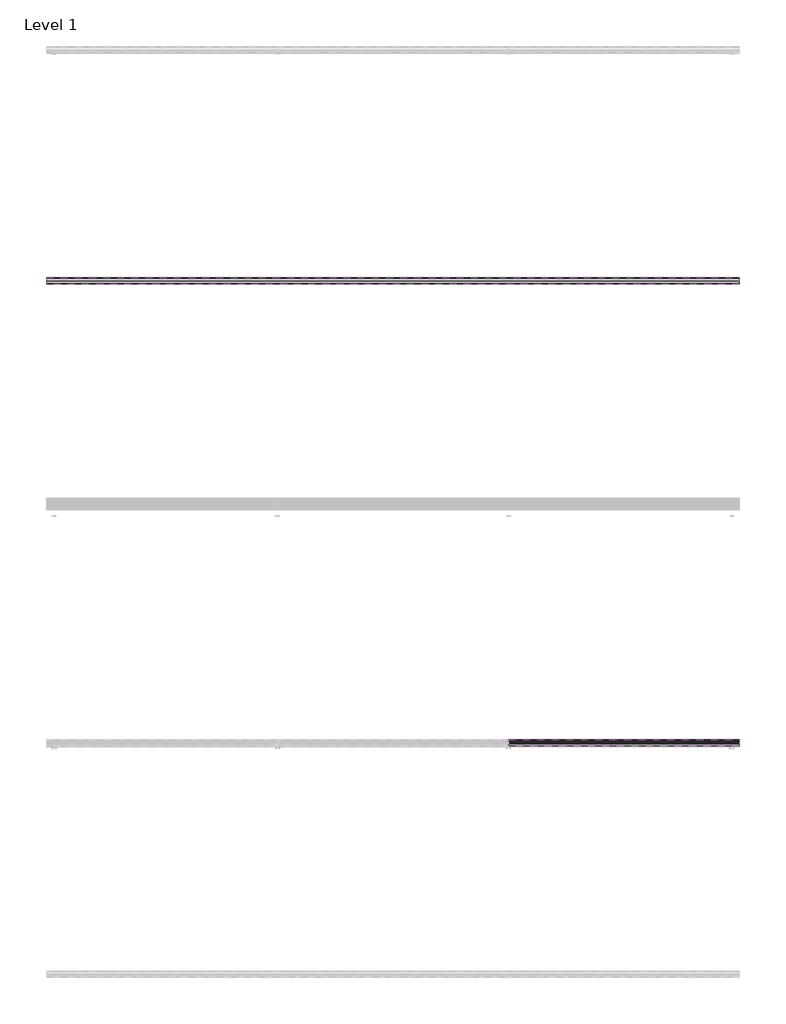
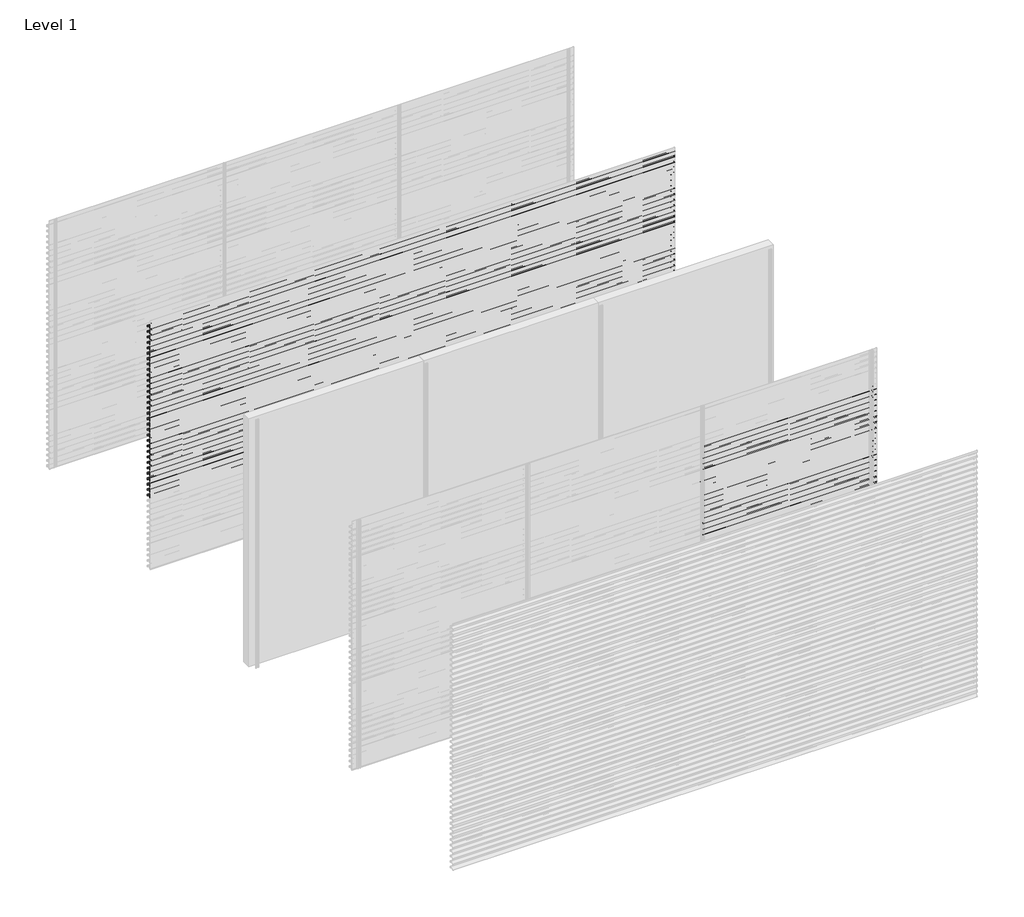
# One storey, part 25 of 27: 71 proxies.
"""IFC4 building model written with IfcOpenShell, lengths in millimetres."""

import ifcopenshell
import ifcopenshell.guid

model = None  # the IFC model being written
_history = None  # IfcOwnerHistory: only IFC2X3 demands one
_inside = {}  # id of a spatial element -> (the spatial element, [elements in it])
_under = {}  # id of a project, library or spatial element -> (it, [spatial elements below it])
_declared = {}  # id of a project -> (the project, [libraries it declares])
_typed = {}  # id of a type object -> (the type object, [elements of that type])
_made_of = {}  # id of a material, layer set ... -> (it, [elements and type objects made of it])


def new_model(schema):
    """Start an empty IFC model of exactly this schema.

    Asked for "IFC4X3", IfcOpenShell would pick the latest addendum, in which some entities
    have other attributes; the version numbers below select the first issue.
    IFC2X3 requires an IfcOwnerHistory on every rooted entity: one is made here for all.
    """
    global model, _history
    if schema == "IFC4X3":
        model = ifcopenshell.file(schema_version=(4, 3, 0, 0))
    else:
        model = ifcopenshell.file(schema=schema)
    _inside.clear()
    _under.clear()
    _declared.clear()
    _typed.clear()
    _made_of.clear()
    _history = None
    if model.schema == "IFC2X3":
        org = make("IfcOrganization", Name="unknown")
        user = make(
            "IfcPersonAndOrganization",
            ThePerson=make("IfcPerson", FamilyName="unknown"),
            TheOrganization=org,
        )
        app = make(
            "IfcApplication",
            ApplicationDeveloper=org,
            Version="unknown",
            ApplicationFullName="unknown",
            ApplicationIdentifier="unknown",
        )
        _history = make(
            "IfcOwnerHistory",
            OwningUser=user,
            OwningApplication=app,
            ChangeAction="ADDED",
            CreationDate=0,
        )
    return model


def make(cls, **values):
    """One entity of the class cls with the attributes given. An attribute that is None is left unset."""
    return model.create_entity(
        cls, **{name: value for name, value in values.items() if value is not None}
    )


def rooted(cls, **values):
    """An entity with a GlobalId (a new one), such as an element, a storey or a relation."""
    return make(cls, GlobalId=ifcopenshell.guid.new(), OwnerHistory=_history, **values)


def si_unit(unit_type, name, prefix=None):
    """IfcSIUnit, for example si_unit("LENGTHUNIT", "METRE", prefix="MILLI")."""
    return make("IfcSIUnit", UnitType=unit_type, Prefix=prefix, Name=name)


def assignment(units):
    """IfcUnitAssignment: the units of a project."""
    return None if units is None else make("IfcUnitAssignment", Units=units)


def point(xyz):
    """IfcCartesianPoint."""
    return None if xyz is None else make("IfcCartesianPoint", Coordinates=xyz)


def direction(xyz):
    """IfcDirection."""
    return None if xyz is None else make("IfcDirection", DirectionRatios=xyz)


def frame(location, z_axis=None, x_axis=None):
    """IfcAxis2Placement3D, a coordinate frame: its origin and axes. An axis left out is left unset."""
    return make(
        "IfcAxis2Placement3D",
        Location=point(location),
        Axis=direction(z_axis),
        RefDirection=direction(x_axis),
    )


def origin():
    """The frame at (0, 0, 0) with its axes left unset."""
    return frame((0.0, 0.0, 0.0))


def place(relative_to, where):
    """IfcLocalPlacement: puts the frame where relative to a parent placement (None: the world)."""
    return make(
        "IfcLocalPlacement", PlacementRelTo=relative_to, RelativePlacement=where
    )


def context(
    kind, dimensions, precision=None, world=None, true_north=None, identifier=None
):
    """IfcGeometricRepresentationContext, for example the 3D "Model" context."""
    return make(
        "IfcGeometricRepresentationContext",
        ContextIdentifier=identifier,
        ContextType=kind,
        CoordinateSpaceDimension=dimensions,
        Precision=precision,
        WorldCoordinateSystem=world,
        TrueNorth=true_north,
    )


def project(units=None, contexts=None):
    """IfcProject with its units and contexts."""
    return rooted(
        "IfcProject",
        Name="project",
        RepresentationContexts=contexts,
        UnitsInContext=assignment(units),
    )


def spatial(cls, under=None, at=None, **own):
    """A site, building, storey or space (cls), placed at a placement, below another one or the project."""
    s = rooted(cls, ObjectPlacement=at, **own)
    if under is not None:
        _under.setdefault(under.id(), (under, []))[1].append(s)
    return s


def polyline(points):
    """IfcPolyline through the points."""
    return make("IfcPolyline", Points=[point(p) for p in points])


def outline(outer, holes=None, kind="AREA"):
    """IfcArbitraryClosedProfileDef: a profile drawn as a closed curve; with holes, ...WithVoids."""
    if holes is None:
        return make("IfcArbitraryClosedProfileDef", ProfileType=kind, OuterCurve=outer)
    return make(
        "IfcArbitraryProfileDefWithVoids",
        ProfileType=kind,
        OuterCurve=outer,
        InnerCurves=holes,
    )


def extrude(swept, where, along, depth):
    """IfcExtrudedAreaSolid: the profile swept, set in the frame where, extruded along a direction by depth."""
    return make(
        "IfcExtrudedAreaSolid",
        SweptArea=swept,
        Position=where,
        ExtrudedDirection=direction(along),
        Depth=depth,
    )


def shape(context_of_items, identifier, shape_type, items):
    """IfcShapeRepresentation: the items that make up one representation, for example the "Body"."""
    return make(
        "IfcShapeRepresentation",
        ContextOfItems=context_of_items,
        RepresentationIdentifier=identifier,
        RepresentationType=shape_type,
        Items=items,
    )


def made_of(thing, what):
    """Note that an element or type object is made of a material, layer set ...; save() writes the relation."""
    if what is not None:
        _made_of.setdefault(what.id(), (what, []))[1].append(thing)
    return thing


def element(
    cls,
    number,
    at=None,
    inside=None,
    cuts=None,
    type_object=None,
    material=None,
    context=None,
    identifier="Body",
    shape_type=None,
    held_by="IfcProductDefinitionShape",
    body=None,
    shapes=None,
    **own,
):
    """One element of the class cls, such as IfcWall. Its Tag is "e" and its number.

    at: its placement. inside: the storey or other place that contains it. cuts: it is an
    opening in that element (IfcRelVoidsElement). A single representation is given by context,
    identifier, shape_type and body (its items); several are given by shapes. held_by: the class
    of the entity that holds the representations. save() writes the other relations.
    """
    e = rooted(cls, Tag="e%d" % number, ObjectPlacement=at, **own)
    if body is not None:
        shapes = [shape(context, identifier, shape_type, body)]
    if shapes is not None:
        e.Representation = make(held_by, Representations=shapes)
    if inside is not None:
        _inside.setdefault(inside.id(), (inside, []))[1].append(e)
    if cuts is not None:
        rooted(
            "IfcRelVoidsElement", RelatingBuildingElement=cuts, RelatedOpeningElement=e
        )
    if type_object is not None:
        _typed.setdefault(type_object.id(), (type_object, []))[1].append(e)
    return made_of(e, material)


def aggregate(whole, parts):
    """IfcRelAggregates: a whole, such as a stair, and the parts it consists of."""
    return rooted("IfcRelAggregates", RelatingObject=whole, RelatedObjects=parts)


def save(model, path):
    """Write the relations noted so far, then the file.

    IfcRelAggregates (storeys below a building ...), IfcRelContainedInSpatialStructure (elements
    in a storey), IfcRelDefinesByType, IfcRelAssociatesMaterial and IfcRelDeclares: one each for
    every whole, place, type object, material and project.
    """
    for whole, parts in _under.values():
        aggregate(whole, parts)
    for where, things in _inside.values():
        rooted(
            "IfcRelContainedInSpatialStructure",
            RelatedElements=things,
            RelatingStructure=where,
        )
    for kind, things in _typed.values():
        rooted("IfcRelDefinesByType", RelatedObjects=things, RelatingType=kind)
    for what, things in _made_of.values():
        rooted("IfcRelAssociatesMaterial", RelatedObjects=things, RelatingMaterial=what)
    for by, libraries in _declared.values():
        rooted("IfcRelDeclares", RelatingContext=by, RelatedDefinitions=libraries)
    model.write(path)


model = new_model("IFC4")

# Units and contexts
model_context = context("Model", 3, world=origin())
ifc_project = project(units=[si_unit("LENGTHUNIT", "METRE", prefix="MILLI")], contexts=[model_context])

# Site, building, storey
site = spatial("IfcSite", under=ifc_project)
building = spatial("IfcBuilding", under=site)
storey = spatial("IfcBuildingStorey", under=building, Name="Level 1", Elevation=0.0)

# Proxies
placement = place(None, origin())
element("IfcBuildingElementProxy", 1, Name="Wall Sweeps", at=placement, inside=storey, context=model_context, shape_type="SweptSolid", body=[
    extrude(outline(polyline([(-1943.0, 2913.2), (-1943.0, 2893.5), (-1944.25, 2894.5866084), (-1944.25, 2912.4872415), (-1963.0322086, 2925.6010889), (-1995.1332975, 2893.5), (-1996.0525363, 2894.4192388), (-1964.1148087, 2926.3569665), (-1998.0, 2950.0158044), (-1998.0, 2970.0), (-1996.75, 2970.0), (-1996.75, 2950.7285629), (-1943.0, 2913.2)])), frame((0.0, 0.0, 0.0), z_axis=(1.0, 0.0, 0.0), x_axis=(0.0, 1.0, 0.0)), (0.0, 0.0, 1.0), 6000.0),
])
element("IfcBuildingElementProxy", 2, Name="Wall Sweeps", at=placement, inside=storey, context=model_context, shape_type="SweptSolid", body=[
    extrude(outline(polyline([(-1943.0, 2847.2), (-1943.0, 2827.5), (-1944.25, 2828.5866084), (-1944.25, 2846.4872415), (-1963.0322086, 2859.6010889), (-1995.1332975, 2827.5), (-1996.0525363, 2828.4192388), (-1964.1148087, 2860.3569665), (-1998.0, 2884.0158044), (-1998.0, 2904.0), (-1996.75, 2904.0), (-1996.75, 2884.7285629), (-1943.0, 2847.2)])), frame((0.0, 0.0, 0.0), z_axis=(1.0, 0.0, 0.0), x_axis=(0.0, 1.0, 0.0)), (0.0, 0.0, 1.0), 6000.0),
])
element("IfcBuildingElementProxy", 3, Name="Wall Sweeps", at=placement, inside=storey, context=model_context, shape_type="SweptSolid", body=[
    extrude(outline(polyline([(-1943.0, 2781.2), (-1943.0, 2761.5), (-1944.25, 2762.5866084), (-1944.25, 2780.4872415), (-1963.0322086, 2793.6010889), (-1995.1332975, 2761.5), (-1996.0525363, 2762.4192388), (-1964.1148087, 2794.3569665), (-1998.0, 2818.0158044), (-1998.0, 2838.0), (-1996.75, 2838.0), (-1996.75, 2818.7285629), (-1943.0, 2781.2)])), frame((0.0, 0.0, 0.0), z_axis=(1.0, 0.0, 0.0), x_axis=(0.0, 1.0, 0.0)), (0.0, 0.0, 1.0), 6000.0),
])
element("IfcBuildingElementProxy", 4, Name="Wall Sweeps", at=placement, inside=storey, context=model_context, shape_type="SweptSolid", body=[
    extrude(outline(polyline([(-1943.0, 2715.2), (-1943.0, 2695.5), (-1944.25, 2696.5866084), (-1944.25, 2714.4872415), (-1963.0322086, 2727.6010889), (-1995.1332975, 2695.5), (-1996.0525363, 2696.4192388), (-1964.1148087, 2728.3569665), (-1998.0, 2752.0158044), (-1998.0, 2772.0), (-1996.75, 2772.0), (-1996.75, 2752.7285629), (-1943.0, 2715.2)])), frame((0.0, 0.0, 0.0), z_axis=(1.0, 0.0, 0.0), x_axis=(0.0, 1.0, 0.0)), (0.0, 0.0, 1.0), 6000.0),
])
element("IfcBuildingElementProxy", 5, Name="Wall Sweeps", at=placement, inside=storey, context=model_context, shape_type="SweptSolid", body=[
    extrude(outline(polyline([(-1943.0, 2649.2), (-1943.0, 2629.5), (-1944.25, 2630.5866084), (-1944.25, 2648.4872415), (-1963.0322086, 2661.6010889), (-1995.1332975, 2629.5), (-1996.0525363, 2630.4192388), (-1964.1148087, 2662.3569665), (-1998.0, 2686.0158044), (-1998.0, 2706.0), (-1996.75, 2706.0), (-1996.75, 2686.7285629), (-1943.0, 2649.2)])), frame((0.0, 0.0, 0.0), z_axis=(1.0, 0.0, 0.0), x_axis=(0.0, 1.0, 0.0)), (0.0, 0.0, 1.0), 6000.0),
])
element("IfcBuildingElementProxy", 6, Name="Wall Sweeps", at=placement, inside=storey, context=model_context, shape_type="SweptSolid", body=[
    extrude(outline(polyline([(-1943.0, 2583.2), (-1943.0, 2563.5), (-1944.25, 2564.5866084), (-1944.25, 2582.4872415), (-1963.0322086, 2595.6010889), (-1995.1332975, 2563.5), (-1996.0525363, 2564.4192388), (-1964.1148087, 2596.3569665), (-1998.0, 2620.0158044), (-1998.0, 2640.0), (-1996.75, 2640.0), (-1996.75, 2620.7285629), (-1943.0, 2583.2)])), frame((0.0, 0.0, 0.0), z_axis=(1.0, 0.0, 0.0), x_axis=(0.0, 1.0, 0.0)), (0.0, 0.0, 1.0), 6000.0),
])
element("IfcBuildingElementProxy", 7, Name="Wall Sweeps", at=placement, inside=storey, context=model_context, shape_type="SweptSolid", body=[
    extrude(outline(polyline([(-1943.0, 2517.2), (-1943.0, 2497.5), (-1944.25, 2498.5866084), (-1944.25, 2516.4872415), (-1963.0322086, 2529.6010889), (-1995.1332975, 2497.5), (-1996.0525363, 2498.4192388), (-1964.1148087, 2530.3569665), (-1998.0, 2554.0158044), (-1998.0, 2574.0), (-1996.75, 2574.0), (-1996.75, 2554.7285629), (-1943.0, 2517.2)])), frame((0.0, 0.0, 0.0), z_axis=(1.0, 0.0, 0.0), x_axis=(0.0, 1.0, 0.0)), (0.0, 0.0, 1.0), 6000.0),
])
element("IfcBuildingElementProxy", 8, Name="Wall Sweeps", at=placement, inside=storey, context=model_context, shape_type="SweptSolid", body=[
    extrude(outline(polyline([(-1943.0, 2451.2), (-1943.0, 2431.5), (-1944.25, 2432.5866084), (-1944.25, 2450.4872415), (-1963.0322086, 2463.6010889), (-1995.1332975, 2431.5), (-1996.0525363, 2432.4192388), (-1964.1148087, 2464.3569665), (-1998.0, 2488.0158044), (-1998.0, 2508.0), (-1996.75, 2508.0), (-1996.75, 2488.7285629), (-1943.0, 2451.2)])), frame((0.0, 0.0, 0.0), z_axis=(1.0, 0.0, 0.0), x_axis=(0.0, 1.0, 0.0)), (0.0, 0.0, 1.0), 6000.0),
])
element("IfcBuildingElementProxy", 9, Name="Wall Sweeps", at=placement, inside=storey, context=model_context, shape_type="SweptSolid", body=[
    extrude(outline(polyline([(-1943.0, 2385.2), (-1943.0, 2365.5), (-1944.25, 2366.5866084), (-1944.25, 2384.4872415), (-1963.0322086, 2397.6010889), (-1995.1332975, 2365.5), (-1996.0525363, 2366.4192388), (-1964.1148087, 2398.3569665), (-1998.0, 2422.0158044), (-1998.0, 2442.0), (-1996.75, 2442.0), (-1996.75, 2422.7285629), (-1943.0, 2385.2)])), frame((0.0, 0.0, 0.0), z_axis=(1.0, 0.0, 0.0), x_axis=(0.0, 1.0, 0.0)), (0.0, 0.0, 1.0), 6000.0),
])
element("IfcBuildingElementProxy", 10, Name="Wall Sweeps", at=placement, inside=storey, context=model_context, shape_type="SweptSolid", body=[
    extrude(outline(polyline([(-1943.0, 2319.2), (-1943.0, 2299.5), (-1944.25, 2300.5866084), (-1944.25, 2318.4872415), (-1963.0322086, 2331.6010889), (-1995.1332975, 2299.5), (-1996.0525363, 2300.4192388), (-1964.1148087, 2332.3569665), (-1998.0, 2356.0158044), (-1998.0, 2376.0), (-1996.75, 2376.0), (-1996.75, 2356.7285629), (-1943.0, 2319.2)])), frame((0.0, 0.0, 0.0), z_axis=(1.0, 0.0, 0.0), x_axis=(0.0, 1.0, 0.0)), (0.0, 0.0, 1.0), 6000.0),
])
element("IfcBuildingElementProxy", 11, Name="Wall Sweeps", at=placement, inside=storey, context=model_context, shape_type="SweptSolid", body=[
    extrude(outline(polyline([(-1943.0, 2253.2), (-1943.0, 2233.5), (-1944.25, 2234.5866084), (-1944.25, 2252.4872415), (-1963.0322086, 2265.6010889), (-1995.1332975, 2233.5), (-1996.0525363, 2234.4192388), (-1964.1148087, 2266.3569665), (-1998.0, 2290.0158044), (-1998.0, 2310.0), (-1996.75, 2310.0), (-1996.75, 2290.7285629), (-1943.0, 2253.2)])), frame((0.0, 0.0, 0.0), z_axis=(1.0, 0.0, 0.0), x_axis=(0.0, 1.0, 0.0)), (0.0, 0.0, 1.0), 6000.0),
])
element("IfcBuildingElementProxy", 12, Name="Wall Sweeps", at=placement, inside=storey, context=model_context, shape_type="SweptSolid", body=[
    extrude(outline(polyline([(-1943.0, 2187.2), (-1943.0, 2167.5), (-1944.25, 2168.5866084), (-1944.25, 2186.4872415), (-1963.0322086, 2199.6010889), (-1995.1332975, 2167.5), (-1996.0525363, 2168.4192388), (-1964.1148087, 2200.3569665), (-1998.0, 2224.0158044), (-1998.0, 2244.0), (-1996.75, 2244.0), (-1996.75, 2224.7285629), (-1943.0, 2187.2)])), frame((0.0, 0.0, 0.0), z_axis=(1.0, 0.0, 0.0), x_axis=(0.0, 1.0, 0.0)), (0.0, 0.0, 1.0), 6000.0),
])
element("IfcBuildingElementProxy", 13, Name="Wall Sweeps", at=placement, inside=storey, context=model_context, shape_type="SweptSolid", body=[
    extrude(outline(polyline([(-1943.0, 2121.2), (-1943.0, 2101.5), (-1944.25, 2102.5866084), (-1944.25, 2120.4872415), (-1963.0322086, 2133.6010889), (-1995.1332975, 2101.5), (-1996.0525363, 2102.4192388), (-1964.1148087, 2134.3569665), (-1998.0, 2158.0158044), (-1998.0, 2178.0), (-1996.75, 2178.0), (-1996.75, 2158.7285629), (-1943.0, 2121.2)])), frame((0.0, 0.0, 0.0), z_axis=(1.0, 0.0, 0.0), x_axis=(0.0, 1.0, 0.0)), (0.0, 0.0, 1.0), 6000.0),
])
element("IfcBuildingElementProxy", 14, Name="Wall Sweeps", at=placement, inside=storey, context=model_context, shape_type="SweptSolid", body=[
    extrude(outline(polyline([(-1943.0, 2055.2), (-1943.0, 2035.5), (-1944.25, 2036.5866084), (-1944.25, 2054.4872415), (-1963.0322086, 2067.6010889), (-1995.1332975, 2035.5), (-1996.0525363, 2036.4192388), (-1964.1148087, 2068.3569665), (-1998.0, 2092.0158044), (-1998.0, 2112.0), (-1996.75, 2112.0), (-1996.75, 2092.7285629), (-1943.0, 2055.2)])), frame((0.0, 0.0, 0.0), z_axis=(1.0, 0.0, 0.0), x_axis=(0.0, 1.0, 0.0)), (0.0, 0.0, 1.0), 6000.0),
])
element("IfcBuildingElementProxy", 15, Name="Wall Sweeps", at=placement, inside=storey, context=model_context, shape_type="SweptSolid", body=[
    extrude(outline(polyline([(-1943.0, 1989.2), (-1943.0, 1969.5), (-1944.25, 1970.5866084), (-1944.25, 1988.4872415), (-1963.0322086, 2001.6010889), (-1995.1332975, 1969.5), (-1996.0525363, 1970.4192388), (-1964.1148087, 2002.3569665), (-1998.0, 2026.0158044), (-1998.0, 2046.0), (-1996.75, 2046.0), (-1996.75, 2026.7285629), (-1943.0, 1989.2)])), frame((0.0, 0.0, 0.0), z_axis=(1.0, 0.0, 0.0), x_axis=(0.0, 1.0, 0.0)), (0.0, 0.0, 1.0), 6000.0),
])
element("IfcBuildingElementProxy", 16, Name="Wall Sweeps", at=placement, inside=storey, context=model_context, shape_type="SweptSolid", body=[
    extrude(outline(polyline([(-1943.0, 1923.2), (-1943.0, 1903.5), (-1944.25, 1904.5866084), (-1944.25, 1922.4872415), (-1963.0322086, 1935.6010889), (-1995.1332975, 1903.5), (-1996.0525363, 1904.4192388), (-1964.1148087, 1936.3569665), (-1998.0, 1960.0158044), (-1998.0, 1980.0), (-1996.75, 1980.0), (-1996.75, 1960.7285629), (-1943.0, 1923.2)])), frame((0.0, 0.0, 0.0), z_axis=(1.0, 0.0, 0.0), x_axis=(0.0, 1.0, 0.0)), (0.0, 0.0, 1.0), 6000.0),
])
element("IfcBuildingElementProxy", 17, Name="Wall Sweeps", at=placement, inside=storey, context=model_context, shape_type="SweptSolid", body=[
    extrude(outline(polyline([(-1943.0, 1857.2), (-1943.0, 1837.5), (-1944.25, 1838.5866084), (-1944.25, 1856.4872415), (-1963.0322086, 1869.6010889), (-1995.1332975, 1837.5), (-1996.0525363, 1838.4192388), (-1964.1148087, 1870.3569665), (-1998.0, 1894.0158044), (-1998.0, 1914.0), (-1996.75, 1914.0), (-1996.75, 1894.7285629), (-1943.0, 1857.2)])), frame((0.0, 0.0, 0.0), z_axis=(1.0, 0.0, 0.0), x_axis=(0.0, 1.0, 0.0)), (0.0, 0.0, 1.0), 6000.0),
])
element("IfcBuildingElementProxy", 18, Name="Wall Sweeps", at=placement, inside=storey, context=model_context, shape_type="SweptSolid", body=[
    extrude(outline(polyline([(-1943.0, 1791.2), (-1943.0, 1771.5), (-1944.25, 1772.5866084), (-1944.25, 1790.4872415), (-1963.0322086, 1803.6010889), (-1995.1332975, 1771.5), (-1996.0525363, 1772.4192388), (-1964.1148087, 1804.3569665), (-1998.0, 1828.0158044), (-1998.0, 1848.0), (-1996.75, 1848.0), (-1996.75, 1828.7285629), (-1943.0, 1791.2)])), frame((0.0, 0.0, 0.0), z_axis=(1.0, 0.0, 0.0), x_axis=(0.0, 1.0, 0.0)), (0.0, 0.0, 1.0), 6000.0),
])
element("IfcBuildingElementProxy", 19, Name="Wall Sweeps", at=placement, inside=storey, context=model_context, shape_type="SweptSolid", body=[
    extrude(outline(polyline([(-1943.0, 1725.2), (-1943.0, 1705.5), (-1944.25, 1706.5866084), (-1944.25, 1724.4872415), (-1963.0322086, 1737.6010889), (-1995.1332975, 1705.5), (-1996.0525363, 1706.4192388), (-1964.1148087, 1738.3569665), (-1998.0, 1762.0158044), (-1998.0, 1782.0), (-1996.75, 1782.0), (-1996.75, 1762.7285629), (-1943.0, 1725.2)])), frame((0.0, 0.0, 0.0), z_axis=(1.0, 0.0, 0.0), x_axis=(0.0, 1.0, 0.0)), (0.0, 0.0, 1.0), 6000.0),
])
element("IfcBuildingElementProxy", 20, Name="Wall Sweeps", at=placement, inside=storey, context=model_context, shape_type="SweptSolid", body=[
    extrude(outline(polyline([(-1943.0, 1659.2), (-1943.0, 1639.5), (-1944.25, 1640.5866084), (-1944.25, 1658.4872415), (-1963.0322086, 1671.6010889), (-1995.1332975, 1639.5), (-1996.0525363, 1640.4192388), (-1964.1148087, 1672.3569665), (-1998.0, 1696.0158044), (-1998.0, 1716.0), (-1996.75, 1716.0), (-1996.75, 1696.7285629), (-1943.0, 1659.2)])), frame((0.0, 0.0, 0.0), z_axis=(1.0, 0.0, 0.0), x_axis=(0.0, 1.0, 0.0)), (0.0, 0.0, 1.0), 6000.0),
])
element("IfcBuildingElementProxy", 21, Name="Wall Sweeps", at=placement, inside=storey, context=model_context, shape_type="SweptSolid", body=[
    extrude(outline(polyline([(-1943.0, 1593.2), (-1943.0, 1573.5), (-1944.25, 1574.5866084), (-1944.25, 1592.4872415), (-1963.0322086, 1605.6010889), (-1995.1332975, 1573.5), (-1996.0525363, 1574.4192388), (-1964.1148087, 1606.3569665), (-1998.0, 1630.0158044), (-1998.0, 1650.0), (-1996.75, 1650.0), (-1996.75, 1630.7285629), (-1943.0, 1593.2)])), frame((0.0, 0.0, 0.0), z_axis=(1.0, 0.0, 0.0), x_axis=(0.0, 1.0, 0.0)), (0.0, 0.0, 1.0), 6000.0),
])
element("IfcBuildingElementProxy", 22, Name="Wall Sweeps", at=placement, inside=storey, context=model_context, shape_type="SweptSolid", body=[
    extrude(outline(polyline([(-1943.0, 1527.2), (-1943.0, 1507.5), (-1944.25, 1508.5866084), (-1944.25, 1526.4872415), (-1963.0322086, 1539.6010889), (-1995.1332975, 1507.5), (-1996.0525363, 1508.4192388), (-1964.1148087, 1540.3569665), (-1998.0, 1564.0158044), (-1998.0, 1584.0), (-1996.75, 1584.0), (-1996.75, 1564.7285629), (-1943.0, 1527.2)])), frame((0.0, 0.0, 0.0), z_axis=(1.0, 0.0, 0.0), x_axis=(0.0, 1.0, 0.0)), (0.0, 0.0, 1.0), 6000.0),
])
element("IfcBuildingElementProxy", 23, Name="Wall Sweeps", at=placement, inside=storey, context=model_context, shape_type="SweptSolid", body=[
    extrude(outline(polyline([(-1943.0, 1461.2), (-1943.0, 1441.5), (-1944.25, 1442.5866084), (-1944.25, 1460.4872415), (-1963.0322086, 1473.6010889), (-1995.1332975, 1441.5), (-1996.0525363, 1442.4192388), (-1964.1148087, 1474.3569665), (-1998.0, 1498.0158044), (-1998.0, 1518.0), (-1996.75, 1518.0), (-1996.75, 1498.7285629), (-1943.0, 1461.2)])), frame((0.0, 0.0, 0.0), z_axis=(1.0, 0.0, 0.0), x_axis=(0.0, 1.0, 0.0)), (0.0, 0.0, 1.0), 6000.0),
])
element("IfcBuildingElementProxy", 24, Name="Wall Sweeps", at=placement, inside=storey, context=model_context, shape_type="SweptSolid", body=[
    extrude(outline(polyline([(-1943.0, 1395.2), (-1943.0, 1375.5), (-1944.25, 1376.5866084), (-1944.25, 1394.4872415), (-1963.0322086, 1407.6010889), (-1995.1332975, 1375.5), (-1996.0525363, 1376.4192388), (-1964.1148087, 1408.3569665), (-1998.0, 1432.0158044), (-1998.0, 1452.0), (-1996.75, 1452.0), (-1996.75, 1432.7285629), (-1943.0, 1395.2)])), frame((0.0, 0.0, 0.0), z_axis=(1.0, 0.0, 0.0), x_axis=(0.0, 1.0, 0.0)), (0.0, 0.0, 1.0), 6000.0),
])
element("IfcBuildingElementProxy", 25, Name="Wall Sweeps", at=placement, inside=storey, context=model_context, shape_type="SweptSolid", body=[
    extrude(outline(polyline([(-1943.0, 1329.2), (-1943.0, 1309.5), (-1944.25, 1310.5866084), (-1944.25, 1328.4872415), (-1963.0322086, 1341.6010889), (-1995.1332975, 1309.5), (-1996.0525363, 1310.4192388), (-1964.1148087, 1342.3569665), (-1998.0, 1366.0158044), (-1998.0, 1386.0), (-1996.75, 1386.0), (-1996.75, 1366.7285629), (-1943.0, 1329.2)])), frame((0.0, 0.0, 0.0), z_axis=(1.0, 0.0, 0.0), x_axis=(0.0, 1.0, 0.0)), (0.0, 0.0, 1.0), 6000.0),
])
element("IfcBuildingElementProxy", 26, Name="Wall Sweeps", at=placement, inside=storey, context=model_context, shape_type="SweptSolid", body=[
    extrude(outline(polyline([(-1943.0, 1263.2), (-1943.0, 1243.5), (-1944.25, 1244.5866084), (-1944.25, 1262.4872415), (-1963.0322086, 1275.6010889), (-1995.1332975, 1243.5), (-1996.0525363, 1244.4192388), (-1964.1148087, 1276.3569665), (-1998.0, 1300.0158044), (-1998.0, 1320.0), (-1996.75, 1320.0), (-1996.75, 1300.7285629), (-1943.0, 1263.2)])), frame((0.0, 0.0, 0.0), z_axis=(1.0, 0.0, 0.0), x_axis=(0.0, 1.0, 0.0)), (0.0, 0.0, 1.0), 6000.0),
])
element("IfcBuildingElementProxy", 27, Name="Wall Sweeps", at=placement, inside=storey, context=model_context, shape_type="SweptSolid", body=[
    extrude(outline(polyline([(-1943.0, 1197.2), (-1943.0, 1177.5), (-1944.25, 1178.5866084), (-1944.25, 1196.4872415), (-1963.0322086, 1209.6010889), (-1995.1332975, 1177.5), (-1996.0525363, 1178.4192388), (-1964.1148087, 1210.3569665), (-1998.0, 1234.0158044), (-1998.0, 1254.0), (-1996.75, 1254.0), (-1996.75, 1234.7285629), (-1943.0, 1197.2)])), frame((0.0, 0.0, 0.0), z_axis=(1.0, 0.0, 0.0), x_axis=(0.0, 1.0, 0.0)), (0.0, 0.0, 1.0), 6000.0),
])
element("IfcBuildingElementProxy", 28, Name="Wall Sweeps", at=placement, inside=storey, context=model_context, shape_type="SweptSolid", body=[
    extrude(outline(polyline([(-1943.0, 1131.2), (-1943.0, 1111.5), (-1944.25, 1112.5866084), (-1944.25, 1130.4872415), (-1963.0322086, 1143.6010889), (-1995.1332975, 1111.5), (-1996.0525363, 1112.4192388), (-1964.1148087, 1144.3569665), (-1998.0, 1168.0158044), (-1998.0, 1188.0), (-1996.75, 1188.0), (-1996.75, 1168.7285629), (-1943.0, 1131.2)])), frame((0.0, 0.0, 0.0), z_axis=(1.0, 0.0, 0.0), x_axis=(0.0, 1.0, 0.0)), (0.0, 0.0, 1.0), 6000.0),
])
element("IfcBuildingElementProxy", 29, Name="Wall Sweeps", at=placement, inside=storey, context=model_context, shape_type="SweptSolid", body=[
    extrude(outline(polyline([(-1943.0, 1065.2), (-1943.0, 1045.5), (-1944.25, 1046.5866084), (-1944.25, 1064.4872415), (-1963.0322086, 1077.6010889), (-1995.1332975, 1045.5), (-1996.0525363, 1046.4192388), (-1964.1148087, 1078.3569665), (-1998.0, 1102.0158044), (-1998.0, 1122.0), (-1996.75, 1122.0), (-1996.75, 1102.7285629), (-1943.0, 1065.2)])), frame((0.0, 0.0, 0.0), z_axis=(1.0, 0.0, 0.0), x_axis=(0.0, 1.0, 0.0)), (0.0, 0.0, 1.0), 6000.0),
])
element("IfcBuildingElementProxy", 30, Name="Wall Sweeps", at=placement, inside=storey, context=model_context, shape_type="SweptSolid", body=[
    extrude(outline(polyline([(-1943.0, 999.2), (-1943.0, 979.5), (-1944.25, 980.5866084), (-1944.25, 998.4872415), (-1963.0322086, 1011.6010889), (-1995.1332975, 979.5), (-1996.0525363, 980.4192388), (-1964.1148087, 1012.3569665), (-1998.0, 1036.0158044), (-1998.0, 1056.0), (-1996.75, 1056.0), (-1996.75, 1036.7285629), (-1943.0, 999.2)])), frame((0.0, 0.0, 0.0), z_axis=(1.0, 0.0, 0.0), x_axis=(0.0, 1.0, 0.0)), (0.0, 0.0, 1.0), 6000.0),
])
element("IfcBuildingElementProxy", 31, Name="Wall Sweeps", at=placement, inside=storey, context=model_context, shape_type="SweptSolid", body=[
    extrude(outline(polyline([(-1943.0, 933.2), (-1943.0, 913.5), (-1944.25, 914.5866084), (-1944.25, 932.4872415), (-1963.0322086, 945.6010889), (-1995.1332975, 913.5), (-1996.0525363, 914.4192388), (-1964.1148087, 946.3569665), (-1998.0, 970.0158044), (-1998.0, 990.0), (-1996.75, 990.0), (-1996.75, 970.7285629), (-1943.0, 933.2)])), frame((0.0, 0.0, 0.0), z_axis=(1.0, 0.0, 0.0), x_axis=(0.0, 1.0, 0.0)), (0.0, 0.0, 1.0), 6000.0),
])
element("IfcBuildingElementProxy", 32, Name="Wall Sweeps", at=placement, inside=storey, context=model_context, shape_type="SweptSolid", body=[
    extrude(outline(polyline([(-1943.0, 867.2), (-1943.0, 847.5), (-1944.25, 848.5866084), (-1944.25, 866.4872415), (-1963.0322086, 879.6010889), (-1995.1332975, 847.5), (-1996.0525363, 848.4192388), (-1964.1148087, 880.3569665), (-1998.0, 904.0158044), (-1998.0, 924.0), (-1996.75, 924.0), (-1996.75, 904.7285629), (-1943.0, 867.2)])), frame((0.0, 0.0, 0.0), z_axis=(1.0, 0.0, 0.0), x_axis=(0.0, 1.0, 0.0)), (0.0, 0.0, 1.0), 6000.0),
])
element("IfcBuildingElementProxy", 33, Name="Wall Sweeps", at=placement, inside=storey, context=model_context, shape_type="SweptSolid", body=[
    extrude(outline(polyline([(-5943.0, 2517.2), (-5943.0, 2497.5), (-5944.25, 2498.5866084), (-5944.25, 2516.4872415), (-5963.0322086, 2529.6010889), (-5995.1332975, 2497.5), (-5996.0525363, 2498.4192388), (-5964.1148087, 2530.3569665), (-5998.0, 2554.0158044), (-5998.0, 2574.0), (-5996.75, 2574.0), (-5996.75, 2554.7285629), (-5943.0, 2517.2)])), frame((4000.0, 0.0, 0.0), z_axis=(1.0, 0.0, 0.0), x_axis=(0.0, 1.0, 0.0)), (0.0, 0.0, 1.0), 2000.0),
])
element("IfcBuildingElementProxy", 34, Name="Wall Sweeps", at=placement, inside=storey, context=model_context, shape_type="SweptSolid", body=[
    extrude(outline(polyline([(-5943.0, 2451.2), (-5943.0, 2431.5), (-5944.25, 2432.5866084), (-5944.25, 2450.4872415), (-5963.0322086, 2463.6010889), (-5995.1332975, 2431.5), (-5996.0525363, 2432.4192388), (-5964.1148087, 2464.3569665), (-5998.0, 2488.0158044), (-5998.0, 2508.0), (-5996.75, 2508.0), (-5996.75, 2488.7285629), (-5943.0, 2451.2)])), frame((4000.0, 0.0, 0.0), z_axis=(1.0, 0.0, 0.0), x_axis=(0.0, 1.0, 0.0)), (0.0, 0.0, 1.0), 2000.0),
])
element("IfcBuildingElementProxy", 35, Name="Wall Sweeps", at=placement, inside=storey, context=model_context, shape_type="SweptSolid", body=[
    extrude(outline(polyline([(-5943.0, 2385.2), (-5943.0, 2365.5), (-5944.25, 2366.5866084), (-5944.25, 2384.4872415), (-5963.0322086, 2397.6010889), (-5995.1332975, 2365.5), (-5996.0525363, 2366.4192388), (-5964.1148087, 2398.3569665), (-5998.0, 2422.0158044), (-5998.0, 2442.0), (-5996.75, 2442.0), (-5996.75, 2422.7285629), (-5943.0, 2385.2)])), frame((4000.0, 0.0, 0.0), z_axis=(1.0, 0.0, 0.0), x_axis=(0.0, 1.0, 0.0)), (0.0, 0.0, 1.0), 2000.0),
])
element("IfcBuildingElementProxy", 36, Name="Wall Sweeps", at=placement, inside=storey, context=model_context, shape_type="SweptSolid", body=[
    extrude(outline(polyline([(-5943.0, 2319.2), (-5943.0, 2299.5), (-5944.25, 2300.5866084), (-5944.25, 2318.4872415), (-5963.0322086, 2331.6010889), (-5995.1332975, 2299.5), (-5996.0525363, 2300.4192388), (-5964.1148087, 2332.3569665), (-5998.0, 2356.0158044), (-5998.0, 2376.0), (-5996.75, 2376.0), (-5996.75, 2356.7285629), (-5943.0, 2319.2)])), frame((4000.0, 0.0, 0.0), z_axis=(1.0, 0.0, 0.0), x_axis=(0.0, 1.0, 0.0)), (0.0, 0.0, 1.0), 2000.0),
])
element("IfcBuildingElementProxy", 37, Name="Wall Sweeps", at=placement, inside=storey, context=model_context, shape_type="SweptSolid", body=[
    extrude(outline(polyline([(-5943.0, 2253.2), (-5943.0, 2233.5), (-5944.25, 2234.5866084), (-5944.25, 2252.4872415), (-5963.0322086, 2265.6010889), (-5995.1332975, 2233.5), (-5996.0525363, 2234.4192388), (-5964.1148087, 2266.3569665), (-5998.0, 2290.0158044), (-5998.0, 2310.0), (-5996.75, 2310.0), (-5996.75, 2290.7285629), (-5943.0, 2253.2)])), frame((4000.0, 0.0, 0.0), z_axis=(1.0, 0.0, 0.0), x_axis=(0.0, 1.0, 0.0)), (0.0, 0.0, 1.0), 2000.0),
])
element("IfcBuildingElementProxy", 38, Name="Wall Sweeps", at=placement, inside=storey, context=model_context, shape_type="SweptSolid", body=[
    extrude(outline(polyline([(-5943.0, 2187.2), (-5943.0, 2167.5), (-5944.25, 2168.5866084), (-5944.25, 2186.4872415), (-5963.0322086, 2199.6010889), (-5995.1332975, 2167.5), (-5996.0525363, 2168.4192388), (-5964.1148087, 2200.3569665), (-5998.0, 2224.0158044), (-5998.0, 2244.0), (-5996.75, 2244.0), (-5996.75, 2224.7285629), (-5943.0, 2187.2)])), frame((4000.0, 0.0, 0.0), z_axis=(1.0, 0.0, 0.0), x_axis=(0.0, 1.0, 0.0)), (0.0, 0.0, 1.0), 2000.0),
])
element("IfcBuildingElementProxy", 39, Name="Wall Sweeps", at=placement, inside=storey, context=model_context, shape_type="SweptSolid", body=[
    extrude(outline(polyline([(-5943.0, 2121.2), (-5943.0, 2101.5), (-5944.25, 2102.5866084), (-5944.25, 2120.4872415), (-5963.0322086, 2133.6010889), (-5995.1332975, 2101.5), (-5996.0525363, 2102.4192388), (-5964.1148087, 2134.3569665), (-5998.0, 2158.0158044), (-5998.0, 2178.0), (-5996.75, 2178.0), (-5996.75, 2158.7285629), (-5943.0, 2121.2)])), frame((4000.0, 0.0, 0.0), z_axis=(1.0, 0.0, 0.0), x_axis=(0.0, 1.0, 0.0)), (0.0, 0.0, 1.0), 2000.0),
])
element("IfcBuildingElementProxy", 40, Name="Wall Sweeps", at=placement, inside=storey, context=model_context, shape_type="SweptSolid", body=[
    extrude(outline(polyline([(-5943.0, 2055.2), (-5943.0, 2035.5), (-5944.25, 2036.5866084), (-5944.25, 2054.4872415), (-5963.0322086, 2067.6010889), (-5995.1332975, 2035.5), (-5996.0525363, 2036.4192388), (-5964.1148087, 2068.3569665), (-5998.0, 2092.0158044), (-5998.0, 2112.0), (-5996.75, 2112.0), (-5996.75, 2092.7285629), (-5943.0, 2055.2)])), frame((4000.0, 0.0, 0.0), z_axis=(1.0, 0.0, 0.0), x_axis=(0.0, 1.0, 0.0)), (0.0, 0.0, 1.0), 2000.0),
])
element("IfcBuildingElementProxy", 41, Name="Wall Sweeps", at=placement, inside=storey, context=model_context, shape_type="SweptSolid", body=[
    extrude(outline(polyline([(-5943.0, 1989.2), (-5943.0, 1969.5), (-5944.25, 1970.5866084), (-5944.25, 1988.4872415), (-5963.0322086, 2001.6010889), (-5995.1332975, 1969.5), (-5996.0525363, 1970.4192388), (-5964.1148087, 2002.3569665), (-5998.0, 2026.0158044), (-5998.0, 2046.0), (-5996.75, 2046.0), (-5996.75, 2026.7285629), (-5943.0, 1989.2)])), frame((4000.0, 0.0, 0.0), z_axis=(1.0, 0.0, 0.0), x_axis=(0.0, 1.0, 0.0)), (0.0, 0.0, 1.0), 2000.0),
])
element("IfcBuildingElementProxy", 42, Name="Wall Sweeps", at=placement, inside=storey, context=model_context, shape_type="SweptSolid", body=[
    extrude(outline(polyline([(-5943.0, 1923.2), (-5943.0, 1903.5), (-5944.25, 1904.5866084), (-5944.25, 1922.4872415), (-5963.0322086, 1935.6010889), (-5995.1332975, 1903.5), (-5996.0525363, 1904.4192388), (-5964.1148087, 1936.3569665), (-5998.0, 1960.0158044), (-5998.0, 1980.0), (-5996.75, 1980.0), (-5996.75, 1960.7285629), (-5943.0, 1923.2)])), frame((4000.0, 0.0, 0.0), z_axis=(1.0, 0.0, 0.0), x_axis=(0.0, 1.0, 0.0)), (0.0, 0.0, 1.0), 2000.0),
])
element("IfcBuildingElementProxy", 43, Name="Wall Sweeps", at=placement, inside=storey, context=model_context, shape_type="SweptSolid", body=[
    extrude(outline(polyline([(-5943.0, 1857.2), (-5943.0, 1837.5), (-5944.25, 1838.5866084), (-5944.25, 1856.4872415), (-5963.0322086, 1869.6010889), (-5995.1332975, 1837.5), (-5996.0525363, 1838.4192388), (-5964.1148087, 1870.3569665), (-5998.0, 1894.0158044), (-5998.0, 1914.0), (-5996.75, 1914.0), (-5996.75, 1894.7285629), (-5943.0, 1857.2)])), frame((4000.0, 0.0, 0.0), z_axis=(1.0, 0.0, 0.0), x_axis=(0.0, 1.0, 0.0)), (0.0, 0.0, 1.0), 2000.0),
])
element("IfcBuildingElementProxy", 44, Name="Wall Sweeps", at=placement, inside=storey, context=model_context, shape_type="SweptSolid", body=[
    extrude(outline(polyline([(-5943.0, 1791.2), (-5943.0, 1771.5), (-5944.25, 1772.5866084), (-5944.25, 1790.4872415), (-5963.0322086, 1803.6010889), (-5995.1332975, 1771.5), (-5996.0525363, 1772.4192388), (-5964.1148087, 1804.3569665), (-5998.0, 1828.0158044), (-5998.0, 1848.0), (-5996.75, 1848.0), (-5996.75, 1828.7285629), (-5943.0, 1791.2)])), frame((4000.0, 0.0, 0.0), z_axis=(1.0, 0.0, 0.0), x_axis=(0.0, 1.0, 0.0)), (0.0, 0.0, 1.0), 2000.0),
])
element("IfcBuildingElementProxy", 45, Name="Wall Sweeps", at=placement, inside=storey, context=model_context, shape_type="SweptSolid", body=[
    extrude(outline(polyline([(-5943.0, 1725.2), (-5943.0, 1705.5), (-5944.25, 1706.5866084), (-5944.25, 1724.4872415), (-5963.0322086, 1737.6010889), (-5995.1332975, 1705.5), (-5996.0525363, 1706.4192388), (-5964.1148087, 1738.3569665), (-5998.0, 1762.0158044), (-5998.0, 1782.0), (-5996.75, 1782.0), (-5996.75, 1762.7285629), (-5943.0, 1725.2)])), frame((4000.0, 0.0, 0.0), z_axis=(1.0, 0.0, 0.0), x_axis=(0.0, 1.0, 0.0)), (0.0, 0.0, 1.0), 2000.0),
])
element("IfcBuildingElementProxy", 46, Name="Wall Sweeps", at=placement, inside=storey, context=model_context, shape_type="SweptSolid", body=[
    extrude(outline(polyline([(-5943.0, 1659.2), (-5943.0, 1639.5), (-5944.25, 1640.5866084), (-5944.25, 1658.4872415), (-5963.0322086, 1671.6010889), (-5995.1332975, 1639.5), (-5996.0525363, 1640.4192388), (-5964.1148087, 1672.3569665), (-5998.0, 1696.0158044), (-5998.0, 1716.0), (-5996.75, 1716.0), (-5996.75, 1696.7285629), (-5943.0, 1659.2)])), frame((4000.0, 0.0, 0.0), z_axis=(1.0, 0.0, 0.0), x_axis=(0.0, 1.0, 0.0)), (0.0, 0.0, 1.0), 2000.0),
])
element("IfcBuildingElementProxy", 47, Name="Wall Sweeps", at=placement, inside=storey, context=model_context, shape_type="SweptSolid", body=[
    extrude(outline(polyline([(-5943.0, 1593.2), (-5943.0, 1573.5), (-5944.25, 1574.5866084), (-5944.25, 1592.4872415), (-5963.0322086, 1605.6010889), (-5995.1332975, 1573.5), (-5996.0525363, 1574.4192388), (-5964.1148087, 1606.3569665), (-5998.0, 1630.0158044), (-5998.0, 1650.0), (-5996.75, 1650.0), (-5996.75, 1630.7285629), (-5943.0, 1593.2)])), frame((4000.0, 0.0, 0.0), z_axis=(1.0, 0.0, 0.0), x_axis=(0.0, 1.0, 0.0)), (0.0, 0.0, 1.0), 2000.0),
])
element("IfcBuildingElementProxy", 48, Name="Wall Sweeps", at=placement, inside=storey, context=model_context, shape_type="SweptSolid", body=[
    extrude(outline(polyline([(-5943.0, 1527.2), (-5943.0, 1507.5), (-5944.25, 1508.5866084), (-5944.25, 1526.4872415), (-5963.0322086, 1539.6010889), (-5995.1332975, 1507.5), (-5996.0525363, 1508.4192388), (-5964.1148087, 1540.3569665), (-5998.0, 1564.0158044), (-5998.0, 1584.0), (-5996.75, 1584.0), (-5996.75, 1564.7285629), (-5943.0, 1527.2)])), frame((4000.0, 0.0, 0.0), z_axis=(1.0, 0.0, 0.0), x_axis=(0.0, 1.0, 0.0)), (0.0, 0.0, 1.0), 2000.0),
])
element("IfcBuildingElementProxy", 49, Name="Wall Sweeps", at=placement, inside=storey, context=model_context, shape_type="SweptSolid", body=[
    extrude(outline(polyline([(-5943.0, 1461.2), (-5943.0, 1441.5), (-5944.25, 1442.5866084), (-5944.25, 1460.4872415), (-5963.0322086, 1473.6010889), (-5995.1332975, 1441.5), (-5996.0525363, 1442.4192388), (-5964.1148087, 1474.3569665), (-5998.0, 1498.0158044), (-5998.0, 1518.0), (-5996.75, 1518.0), (-5996.75, 1498.7285629), (-5943.0, 1461.2)])), frame((4000.0, 0.0, 0.0), z_axis=(1.0, 0.0, 0.0), x_axis=(0.0, 1.0, 0.0)), (0.0, 0.0, 1.0), 2000.0),
])
element("IfcBuildingElementProxy", 50, Name="Wall Sweeps", at=placement, inside=storey, context=model_context, shape_type="SweptSolid", body=[
    extrude(outline(polyline([(-5943.0, 1395.2), (-5943.0, 1375.5), (-5944.25, 1376.5866084), (-5944.25, 1394.4872415), (-5963.0322086, 1407.6010889), (-5995.1332975, 1375.5), (-5996.0525363, 1376.4192388), (-5964.1148087, 1408.3569665), (-5998.0, 1432.0158044), (-5998.0, 1452.0), (-5996.75, 1452.0), (-5996.75, 1432.7285629), (-5943.0, 1395.2)])), frame((4000.0, 0.0, 0.0), z_axis=(1.0, 0.0, 0.0), x_axis=(0.0, 1.0, 0.0)), (0.0, 0.0, 1.0), 2000.0),
])
element("IfcBuildingElementProxy", 51, Name="Wall Sweeps", at=placement, inside=storey, context=model_context, shape_type="SweptSolid", body=[
    extrude(outline(polyline([(-5943.0, 1329.2), (-5943.0, 1309.5), (-5944.25, 1310.5866084), (-5944.25, 1328.4872415), (-5963.0322086, 1341.6010889), (-5995.1332975, 1309.5), (-5996.0525363, 1310.4192388), (-5964.1148087, 1342.3569665), (-5998.0, 1366.0158044), (-5998.0, 1386.0), (-5996.75, 1386.0), (-5996.75, 1366.7285629), (-5943.0, 1329.2)])), frame((4000.0, 0.0, 0.0), z_axis=(1.0, 0.0, 0.0), x_axis=(0.0, 1.0, 0.0)), (0.0, 0.0, 1.0), 2000.0),
])
element("IfcBuildingElementProxy", 52, Name="Wall Sweeps", at=placement, inside=storey, context=model_context, shape_type="SweptSolid", body=[
    extrude(outline(polyline([(-5943.0, 1263.2), (-5943.0, 1243.5), (-5944.25, 1244.5866084), (-5944.25, 1262.4872415), (-5963.0322086, 1275.6010889), (-5995.1332975, 1243.5), (-5996.0525363, 1244.4192388), (-5964.1148087, 1276.3569665), (-5998.0, 1300.0158044), (-5998.0, 1320.0), (-5996.75, 1320.0), (-5996.75, 1300.7285629), (-5943.0, 1263.2)])), frame((4000.0, 0.0, 0.0), z_axis=(1.0, 0.0, 0.0), x_axis=(0.0, 1.0, 0.0)), (0.0, 0.0, 1.0), 2000.0),
])
element("IfcBuildingElementProxy", 53, Name="Wall Sweeps", at=placement, inside=storey, context=model_context, shape_type="SweptSolid", body=[
    extrude(outline(polyline([(-5943.0, 1197.2), (-5943.0, 1177.5), (-5944.25, 1178.5866084), (-5944.25, 1196.4872415), (-5963.0322086, 1209.6010889), (-5995.1332975, 1177.5), (-5996.0525363, 1178.4192388), (-5964.1148087, 1210.3569665), (-5998.0, 1234.0158044), (-5998.0, 1254.0), (-5996.75, 1254.0), (-5996.75, 1234.7285629), (-5943.0, 1197.2)])), frame((4000.0, 0.0, 0.0), z_axis=(1.0, 0.0, 0.0), x_axis=(0.0, 1.0, 0.0)), (0.0, 0.0, 1.0), 2000.0),
])
element("IfcBuildingElementProxy", 54, Name="Wall Sweeps", at=placement, inside=storey, context=model_context, shape_type="SweptSolid", body=[
    extrude(outline(polyline([(-5943.0, 1131.2), (-5943.0, 1111.5), (-5944.25, 1112.5866084), (-5944.25, 1130.4872415), (-5963.0322086, 1143.6010889), (-5995.1332975, 1111.5), (-5996.0525363, 1112.4192388), (-5964.1148087, 1144.3569665), (-5998.0, 1168.0158044), (-5998.0, 1188.0), (-5996.75, 1188.0), (-5996.75, 1168.7285629), (-5943.0, 1131.2)])), frame((4000.0, 0.0, 0.0), z_axis=(1.0, 0.0, 0.0), x_axis=(0.0, 1.0, 0.0)), (0.0, 0.0, 1.0), 2000.0),
])
element("IfcBuildingElementProxy", 55, Name="Wall Sweeps", at=placement, inside=storey, context=model_context, shape_type="SweptSolid", body=[
    extrude(outline(polyline([(-5943.0, 1065.2), (-5943.0, 1045.5), (-5944.25, 1046.5866084), (-5944.25, 1064.4872415), (-5963.0322086, 1077.6010889), (-5995.1332975, 1045.5), (-5996.0525363, 1046.4192388), (-5964.1148087, 1078.3569665), (-5998.0, 1102.0158044), (-5998.0, 1122.0), (-5996.75, 1122.0), (-5996.75, 1102.7285629), (-5943.0, 1065.2)])), frame((4000.0, 0.0, 0.0), z_axis=(1.0, 0.0, 0.0), x_axis=(0.0, 1.0, 0.0)), (0.0, 0.0, 1.0), 2000.0),
])
element("IfcBuildingElementProxy", 56, Name="Wall Sweeps", at=placement, inside=storey, context=model_context, shape_type="SweptSolid", body=[
    extrude(outline(polyline([(-5943.0, 999.2), (-5943.0, 979.5), (-5944.25, 980.5866084), (-5944.25, 998.4872415), (-5963.0322086, 1011.6010889), (-5995.1332975, 979.5), (-5996.0525363, 980.4192388), (-5964.1148087, 1012.3569665), (-5998.0, 1036.0158044), (-5998.0, 1056.0), (-5996.75, 1056.0), (-5996.75, 1036.7285629), (-5943.0, 999.2)])), frame((4000.0, 0.0, 0.0), z_axis=(1.0, 0.0, 0.0), x_axis=(0.0, 1.0, 0.0)), (0.0, 0.0, 1.0), 2000.0),
])
element("IfcBuildingElementProxy", 57, Name="Wall Sweeps", at=placement, inside=storey, context=model_context, shape_type="SweptSolid", body=[
    extrude(outline(polyline([(-5943.0, 933.2), (-5943.0, 913.5), (-5944.25, 914.5866084), (-5944.25, 932.4872415), (-5963.0322086, 945.6010889), (-5995.1332975, 913.5), (-5996.0525363, 914.4192388), (-5964.1148087, 946.3569665), (-5998.0, 970.0158044), (-5998.0, 990.0), (-5996.75, 990.0), (-5996.75, 970.7285629), (-5943.0, 933.2)])), frame((4000.0, 0.0, 0.0), z_axis=(1.0, 0.0, 0.0), x_axis=(0.0, 1.0, 0.0)), (0.0, 0.0, 1.0), 2000.0),
])
element("IfcBuildingElementProxy", 58, Name="Wall Sweeps", at=placement, inside=storey, context=model_context, shape_type="SweptSolid", body=[
    extrude(outline(polyline([(-5943.0, 867.2), (-5943.0, 847.5), (-5944.25, 848.5866084), (-5944.25, 866.4872415), (-5963.0322086, 879.6010889), (-5995.1332975, 847.5), (-5996.0525363, 848.4192388), (-5964.1148087, 880.3569665), (-5998.0, 904.0158044), (-5998.0, 924.0), (-5996.75, 924.0), (-5996.75, 904.7285629), (-5943.0, 867.2)])), frame((4000.0, 0.0, 0.0), z_axis=(1.0, 0.0, 0.0), x_axis=(0.0, 1.0, 0.0)), (0.0, 0.0, 1.0), 2000.0),
])
element("IfcBuildingElementProxy", 59, Name="Wall Sweeps", at=placement, inside=storey, context=model_context, shape_type="SweptSolid", body=[
    extrude(outline(polyline([(-5943.0, 801.2), (-5943.0, 781.5), (-5944.25, 782.5866084), (-5944.25, 800.4872415), (-5963.0322086, 813.6010889), (-5995.1332975, 781.5), (-5996.0525363, 782.4192388), (-5964.1148087, 814.3569665), (-5998.0, 838.0158044), (-5998.0, 858.0), (-5996.75, 858.0), (-5996.75, 838.7285629), (-5943.0, 801.2)])), frame((4000.0, 0.0, 0.0), z_axis=(1.0, 0.0, 0.0), x_axis=(0.0, 1.0, 0.0)), (0.0, 0.0, 1.0), 2000.0),
])
element("IfcBuildingElementProxy", 60, Name="Wall Sweeps", at=placement, inside=storey, context=model_context, shape_type="SweptSolid", body=[
    extrude(outline(polyline([(-5943.0, 735.2), (-5943.0, 715.5), (-5944.25, 716.5866084), (-5944.25, 734.4872415), (-5963.0322086, 747.6010889), (-5995.1332975, 715.5), (-5996.0525363, 716.4192388), (-5964.1148087, 748.3569665), (-5998.0, 772.0158044), (-5998.0, 792.0), (-5996.75, 792.0), (-5996.75, 772.7285629), (-5943.0, 735.2)])), frame((4000.0, 0.0, 0.0), z_axis=(1.0, 0.0, 0.0), x_axis=(0.0, 1.0, 0.0)), (0.0, 0.0, 1.0), 2000.0),
])
element("IfcBuildingElementProxy", 61, Name="Wall Sweeps", at=placement, inside=storey, context=model_context, shape_type="SweptSolid", body=[
    extrude(outline(polyline([(-5943.0, 669.2), (-5943.0, 649.5), (-5944.25, 650.5866084), (-5944.25, 668.4872415), (-5963.0322086, 681.6010889), (-5995.1332975, 649.5), (-5996.0525363, 650.4192388), (-5964.1148087, 682.3569665), (-5998.0, 706.0158044), (-5998.0, 726.0), (-5996.75, 726.0), (-5996.75, 706.7285629), (-5943.0, 669.2)])), frame((4000.0, 0.0, 0.0), z_axis=(1.0, 0.0, 0.0), x_axis=(0.0, 1.0, 0.0)), (0.0, 0.0, 1.0), 2000.0),
])
element("IfcBuildingElementProxy", 62, Name="Wall Sweeps", at=placement, inside=storey, context=model_context, shape_type="SweptSolid", body=[
    extrude(outline(polyline([(-5943.0, 603.2), (-5943.0, 583.5), (-5944.25, 584.5866084), (-5944.25, 602.4872415), (-5963.0322086, 615.6010889), (-5995.1332975, 583.5), (-5996.0525363, 584.4192388), (-5964.1148087, 616.3569665), (-5998.0, 640.0158044), (-5998.0, 660.0), (-5996.75, 660.0), (-5996.75, 640.7285629), (-5943.0, 603.2)])), frame((4000.0, 0.0, 0.0), z_axis=(1.0, 0.0, 0.0), x_axis=(0.0, 1.0, 0.0)), (0.0, 0.0, 1.0), 2000.0),
])
element("IfcBuildingElementProxy", 63, Name="Wall Sweeps", at=placement, inside=storey, context=model_context, shape_type="SweptSolid", body=[
    extrude(outline(polyline([(-5943.0, 537.2), (-5943.0, 517.5), (-5944.25, 518.5866084), (-5944.25, 536.4872415), (-5963.0322086, 549.6010889), (-5995.1332975, 517.5), (-5996.0525363, 518.4192388), (-5964.1148087, 550.3569665), (-5998.0, 574.0158044), (-5998.0, 594.0), (-5996.75, 594.0), (-5996.75, 574.7285629), (-5943.0, 537.2)])), frame((4000.0, 0.0, 0.0), z_axis=(1.0, 0.0, 0.0), x_axis=(0.0, 1.0, 0.0)), (0.0, 0.0, 1.0), 2000.0),
])
element("IfcBuildingElementProxy", 64, Name="Wall Sweeps", at=placement, inside=storey, context=model_context, shape_type="SweptSolid", body=[
    extrude(outline(polyline([(-5943.0, 471.2), (-5943.0, 451.5), (-5944.25, 452.5866084), (-5944.25, 470.4872415), (-5963.0322086, 483.6010889), (-5995.1332975, 451.5), (-5996.0525363, 452.4192388), (-5964.1148087, 484.3569665), (-5998.0, 508.0158044), (-5998.0, 528.0), (-5996.75, 528.0), (-5996.75, 508.7285629), (-5943.0, 471.2)])), frame((4000.0, 0.0, 0.0), z_axis=(1.0, 0.0, 0.0), x_axis=(0.0, 1.0, 0.0)), (0.0, 0.0, 1.0), 2000.0),
])
element("IfcBuildingElementProxy", 65, Name="Wall Sweeps", at=placement, inside=storey, context=model_context, shape_type="SweptSolid", body=[
    extrude(outline(polyline([(-5943.0, 405.2), (-5943.0, 385.5), (-5944.25, 386.5866084), (-5944.25, 404.4872415), (-5963.0322086, 417.6010889), (-5995.1332975, 385.5), (-5996.0525363, 386.4192388), (-5964.1148087, 418.3569665), (-5998.0, 442.0158044), (-5998.0, 462.0), (-5996.75, 462.0), (-5996.75, 442.7285629), (-5943.0, 405.2)])), frame((4000.0, 0.0, 0.0), z_axis=(1.0, 0.0, 0.0), x_axis=(0.0, 1.0, 0.0)), (0.0, 0.0, 1.0), 2000.0),
])
element("IfcBuildingElementProxy", 66, Name="Wall Sweeps", at=placement, inside=storey, context=model_context, shape_type="SweptSolid", body=[
    extrude(outline(polyline([(-5943.0, 339.2), (-5943.0, 319.5), (-5944.25, 320.5866084), (-5944.25, 338.4872415), (-5963.0322086, 351.6010889), (-5995.1332975, 319.5), (-5996.0525363, 320.4192388), (-5964.1148087, 352.3569665), (-5998.0, 376.0158044), (-5998.0, 396.0), (-5996.75, 396.0), (-5996.75, 376.7285629), (-5943.0, 339.2)])), frame((4000.0, 0.0, 0.0), z_axis=(1.0, 0.0, 0.0), x_axis=(0.0, 1.0, 0.0)), (0.0, 0.0, 1.0), 2000.0),
])
element("IfcBuildingElementProxy", 67, Name="Wall Sweeps", at=placement, inside=storey, context=model_context, shape_type="SweptSolid", body=[
    extrude(outline(polyline([(-5943.0, 273.2), (-5943.0, 253.5), (-5944.25, 254.5866084), (-5944.25, 272.4872415), (-5963.0322086, 285.6010889), (-5995.1332975, 253.5), (-5996.0525363, 254.4192388), (-5964.1148087, 286.3569665), (-5998.0, 310.0158044), (-5998.0, 330.0), (-5996.75, 330.0), (-5996.75, 310.7285629), (-5943.0, 273.2)])), frame((4000.0, 0.0, 0.0), z_axis=(1.0, 0.0, 0.0), x_axis=(0.0, 1.0, 0.0)), (0.0, 0.0, 1.0), 2000.0),
])
element("IfcBuildingElementProxy", 68, Name="Wall Sweeps", at=placement, inside=storey, context=model_context, shape_type="SweptSolid", body=[
    extrude(outline(polyline([(-5943.0, 207.2), (-5943.0, 187.5), (-5944.25, 188.5866084), (-5944.25, 206.4872415), (-5963.0322086, 219.6010889), (-5995.1332975, 187.5), (-5996.0525363, 188.4192388), (-5964.1148087, 220.3569665), (-5998.0, 244.0158044), (-5998.0, 264.0), (-5996.75, 264.0), (-5996.75, 244.7285629), (-5943.0, 207.2)])), frame((4000.0, 0.0, 0.0), z_axis=(1.0, 0.0, 0.0), x_axis=(0.0, 1.0, 0.0)), (0.0, 0.0, 1.0), 2000.0),
])
element("IfcBuildingElementProxy", 69, Name="Wall Sweeps", at=placement, inside=storey, context=model_context, shape_type="SweptSolid", body=[
    extrude(outline(polyline([(-5943.0, 141.2), (-5943.0, 121.5), (-5944.25, 122.5866084), (-5944.25, 140.4872415), (-5963.0322086, 153.6010889), (-5995.1332975, 121.5), (-5996.0525363, 122.4192388), (-5964.1148087, 154.3569665), (-5998.0, 178.0158044), (-5998.0, 198.0), (-5996.75, 198.0), (-5996.75, 178.7285629), (-5943.0, 141.2)])), frame((4000.0, 0.0, 0.0), z_axis=(1.0, 0.0, 0.0), x_axis=(0.0, 1.0, 0.0)), (0.0, 0.0, 1.0), 2000.0),
])
element("IfcBuildingElementProxy", 70, Name="Wall Sweeps", at=placement, inside=storey, context=model_context, shape_type="SweptSolid", body=[
    extrude(outline(polyline([(-5943.0, 75.2), (-5943.0, 55.5), (-5944.25, 56.5866084), (-5944.25, 74.4872415), (-5963.0322086, 87.6010889), (-5995.1332975, 55.5), (-5996.0525363, 56.4192388), (-5964.1148087, 88.3569665), (-5998.0, 112.0158044), (-5998.0, 132.0), (-5996.75, 132.0), (-5996.75, 112.7285629), (-5943.0, 75.2)])), frame((4000.0, 0.0, 0.0), z_axis=(1.0, 0.0, 0.0), x_axis=(0.0, 1.0, 0.0)), (0.0, 0.0, 1.0), 2000.0),
])
element("IfcBuildingElementProxy", 71, Name="Wall Sweeps", at=placement, inside=storey, context=model_context, shape_type="SweptSolid", body=[
    extrude(outline(polyline([(-5943.0, 9.2), (-5943.0, -10.5), (-5944.25, -9.4133916), (-5944.25, 8.4872415), (-5963.0322086, 21.6010889), (-5995.1332975, -10.5), (-5996.0525363, -9.5807612), (-5964.1148087, 22.3569665), (-5998.0, 46.0158044), (-5998.0, 66.0), (-5996.75, 66.0), (-5996.75, 46.7285629), (-5943.0, 9.2)])), frame((4000.0, 0.0, 0.0), z_axis=(1.0, 0.0, 0.0), x_axis=(0.0, 1.0, 0.0)), (0.0, 0.0, 1.0), 2000.0),
])

save(model, "model.ifc")
